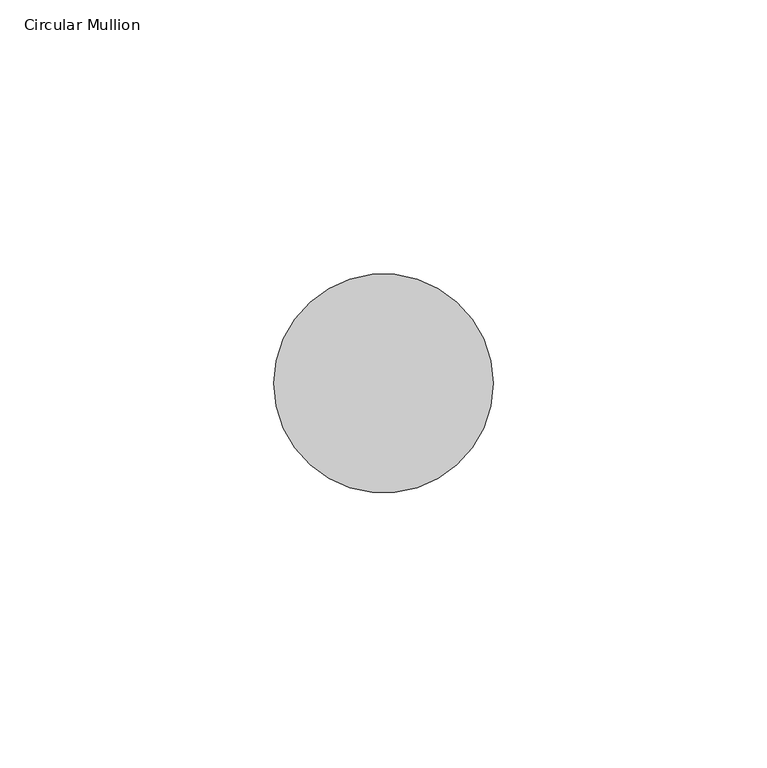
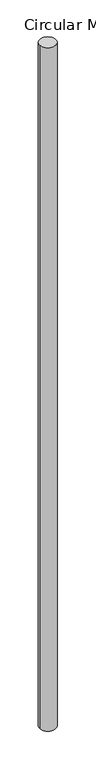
"""IFC4 building model written with IfcOpenShell, lengths in millimetres: member geometry, Circular Mullion : GRADIL 40mm."""

from ifc_helpers import new_model, si_unit, point, frame, origin, origin_2d, place, context, project, spatial, circle_curve, trimmed, segment, composite_curve, outline, extrude, source, transform, mapped, element, save


def circular_mullion_4cdccc34(model_context):
    return source(origin(), model_context, "Body", "SweptSolid", [
        extrude(outline(composite_curve([segment(trimmed(circle_curve(origin_2d(), 20.0), [point((20.0, 0.0))], [point((-20.0, 0.0))], False, "CARTESIAN"), True, "CONTINUOUS"), segment(trimmed(circle_curve(origin_2d(), 20.0), [point((-20.0, 0.0))], [point((20.0, 0.0))], False, "CARTESIAN"), True, "CONTINUOUS")], self_intersect=False)), frame((0.0, 0.0, -1769.302634), z_axis=(0.0, 0.0, 1.0), x_axis=(1.0, 0.0, 0.0)), (0.0, 0.0, 1.0), 1769.302634),
    ])


if __name__ == "__main__":
    model = new_model("IFC4")
    model_context = context("Model", 3, world=origin())
    ifc_project = project(units=[si_unit("LENGTHUNIT", "METRE", prefix="MILLI")], contexts=[model_context])
    site = spatial("IfcSite", under=ifc_project)
    building = spatial("IfcBuilding", under=site)
    placement = place(None, origin())
    circular_mullion_shape = circular_mullion_4cdccc34(model_context)
    element("IfcMember", 1, ObjectType="Circular Mullion : GRADIL 40mm", at=placement, inside=building, context=model_context, shape_type="MappedRepresentation", body=[
        mapped(circular_mullion_shape, transform((0.0, 0.0, 0.0), x_axis=(1.0, 0.0, 0.0), y_axis=(0.0, 1.0, 0.0), z_axis=(0.0, 0.0, 1.0))),
    ])
    save(model, "model.ifc")
